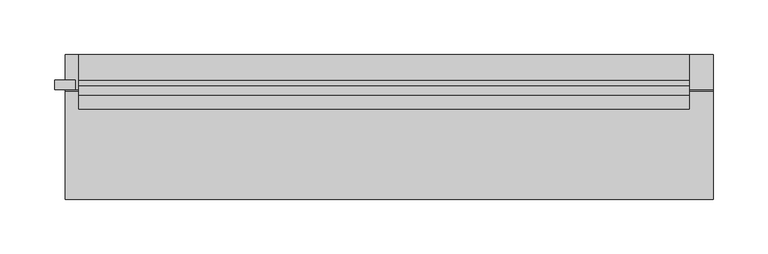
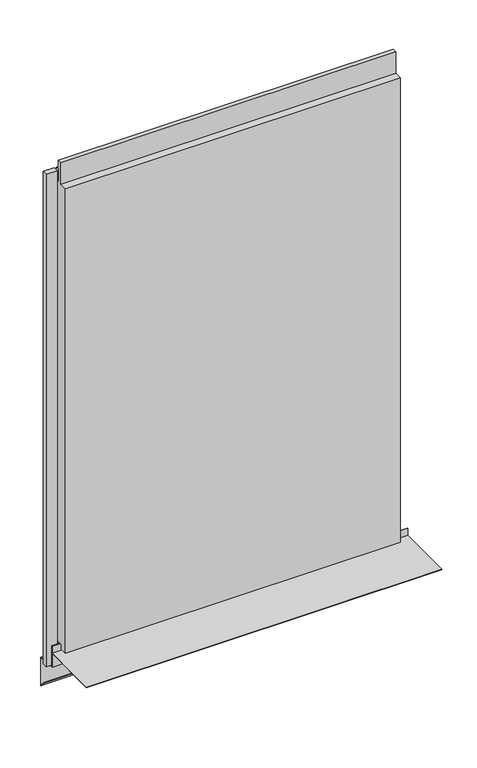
"""IFC4 building model written with IfcOpenShell, lengths in millimetres: plate geometry, Trimo_Qbiss Screen_Normal Panel-HORIZONTAL : HR - B."""

from ifc_helpers import new_model, si_unit, frame, origin, place, context, project, spatial, polyline, outline, extrude, source, transform, mapped, element, save


def plate_c2fd8d0c(model_context):
    return source(origin(), model_context, "Body", "SweptSolid", [
        extrude(outline(polyline([(66.7, 14.0835797), (67.5, 14.0835797), (67.5, -23.0), (100.0, -25.8433816), (100.0, -76.0), (87.1509533, -63.1509533), (87.7166388, -62.5852679), (99.2, -74.0686292), (99.2, -26.5764465), (66.7, -23.7330649), (66.7, 1.0), (-32.5, 1.0), (-32.5, 1.8), (66.7, 1.8), (66.7, 14.0835797)])), frame((-310.7049816, 0.0, 0.0), z_axis=(1.0, 0.0, 0.0), x_axis=(0.0, 1.0, 0.0)), (0.0, 0.0, 1.0), 593.4099631),
        extrude(outline(polyline([(-301.2049816, 76.5978162), (-301.2049816, 67.8978162), (-320.2049816, 67.8978162), (-320.2049816, 76.5978162), (-301.2049816, 76.5978162)])), frame((0.0, 0.0, -20.0), z_axis=(0.0, 0.0, 1.0), x_axis=(1.0, 0.0, 0.0)), (0.0, 0.0, 1.0), 869.0),
        extrude(outline(polyline([(260.7049816, 76.0), (260.7049816, 71.0), (-298.2049816, 71.0), (-298.2049816, 76.0), (260.7049816, 76.0)])), frame((0.0, 0.0, 828.0), z_axis=(0.0, 0.0, 1.0), x_axis=(1.0, 0.0, 0.0)), (0.0, 0.0, 1.0), 21.0),
        extrude(outline(polyline([(71.0, 827.0), (100.0, 827.0), (100.0, 0.0), (72.0, 0.0), (72.0, 15.5), (62.0, 15.5), (62.0, 7.0), (50.0, 7.0), (50.0, 827.0), (63.0, 827.0), (63.0, 864.5), (71.0, 864.5), (71.0, 827.0)])), frame((-298.2049816, 0.0, 0.0), z_axis=(1.0, 0.0, 0.0), x_axis=(0.0, 1.0, 0.0)), (0.0, 0.0, 1.0), 558.9099631),
    ])


if __name__ == "__main__":
    model = new_model("IFC4")
    model_context = context("Model", 3, world=origin())
    ifc_project = project(units=[si_unit("LENGTHUNIT", "METRE", prefix="MILLI")], contexts=[model_context])
    site = spatial("IfcSite", under=ifc_project)
    building = spatial("IfcBuilding", under=site)
    placement = place(None, origin())
    plate_shape = plate_c2fd8d0c(model_context)
    element("IfcPlate", 1, ObjectType="Trimo_Qbiss Screen_Normal Panel-HORIZONTAL : HR - B", at=placement, inside=building, context=model_context, shape_type="MappedRepresentation", body=[
        mapped(plate_shape, transform((0.0, 0.0, 0.0), x_axis=(1.0, 0.0, 0.0), y_axis=(0.0, 1.0, 0.0), z_axis=(0.0, 0.0, 1.0))),
    ])
    save(model, "model.ifc")
